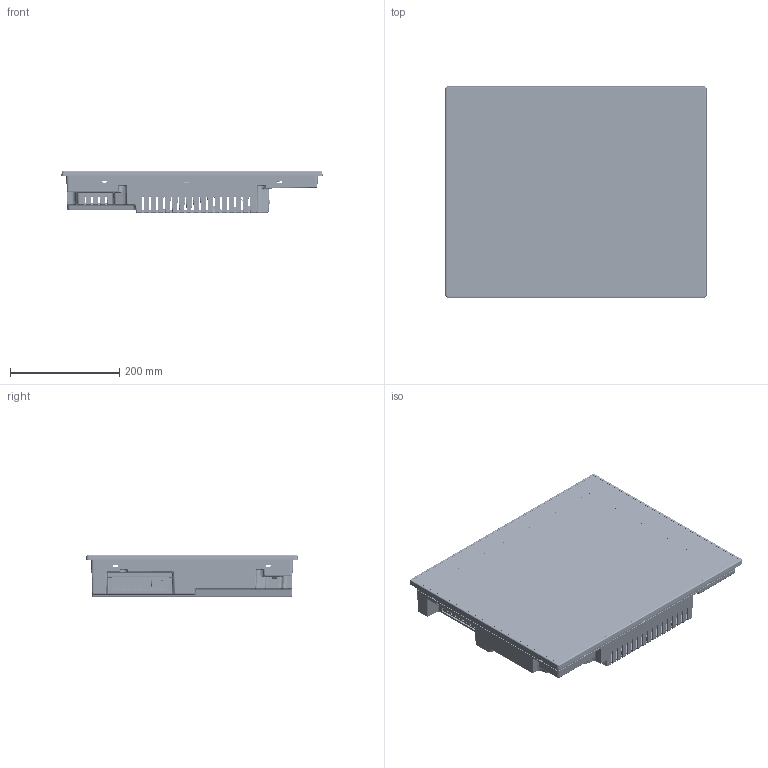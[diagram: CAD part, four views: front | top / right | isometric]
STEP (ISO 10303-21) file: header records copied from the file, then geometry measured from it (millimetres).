
FILE_DESCRIPTION (( 'STEP AP214' ), '1' );
FILE_NAME ('CM-iNP519 Assy.STEP', '2025-02-24T03:36:09', ( '' ), ( '' ), 'SwSTEP 2.0', 'SolidWorks 2024', '' );
FILE_SCHEMA (( 'AUTOMOTIVE_DESIGN' ));
Length unit declared in the file: millimetre
Products named in the file (11): Connector_Dsub 9P_연장선; Main board_BTC40026_J6412T-IM-A; Main plate_BTC40016_19_A_0.188; CM-iNP519 Assy; Frame rubber_BTC90311_AL19_A_Tensile; Front Bezel_BTC40041_AL19_A; Bottom case AL_BTC90316_AL19_A; Asssy 485_BNT21056_RS422,485_v0.5; PSU_BXP03019_CM-PC441NF, 100~240V, 12V, 6A; IO Bracket_BTC40024_19_A_ASUS J6412T-IM-A; HSB block bracket_BTC90318_AL19_A
Assembly tree (12 placements, depth 2):
  CM-iNP519 Assy
    Front Bezel_BTC40041_AL19_A
    IO Bracket_BTC40024_19_A_ASUS J6412T-IM-A
    Main plate_BTC40016_19_A_0.188
    Bottom case AL_BTC90316_AL19_A
    Frame rubber_BTC90311_AL19_A_Tensile
    HSB block bracket_BTC90318_AL19_A
    Connector_Dsub 9P_연장선  x3
    Asssy 485_BNT21056_RS422,485_v0.5
    PSU_BXP03019_CM-PC441NF, 100~240V, 12V, 6A
    Main board_BTC40026_J6412T-IM-A
Bounding box: 479.2 x 388.2 x 77.3 mm (x, y, z)
Volume: 1131369.5 mm3; surface area: 1223349.5 mm2
Topology: 25 solids, 111 shells, 17514 faces, 46773 edges, 29623 vertices
Faces by surface type: plane 9867, cylinder 5180, bspline 1360, cone 433, torus 374, sphere 300
Entity records: 733596 total; most frequent: CARTESIAN_POINT 176055, ORIENTED_EDGE 91316, DIRECTION 74563, EDGE_CURVE 45762, VERTEX_POINT 29065, VECTOR 25365, LINE 25365, AXIS2_PLACEMENT_3D 24599
